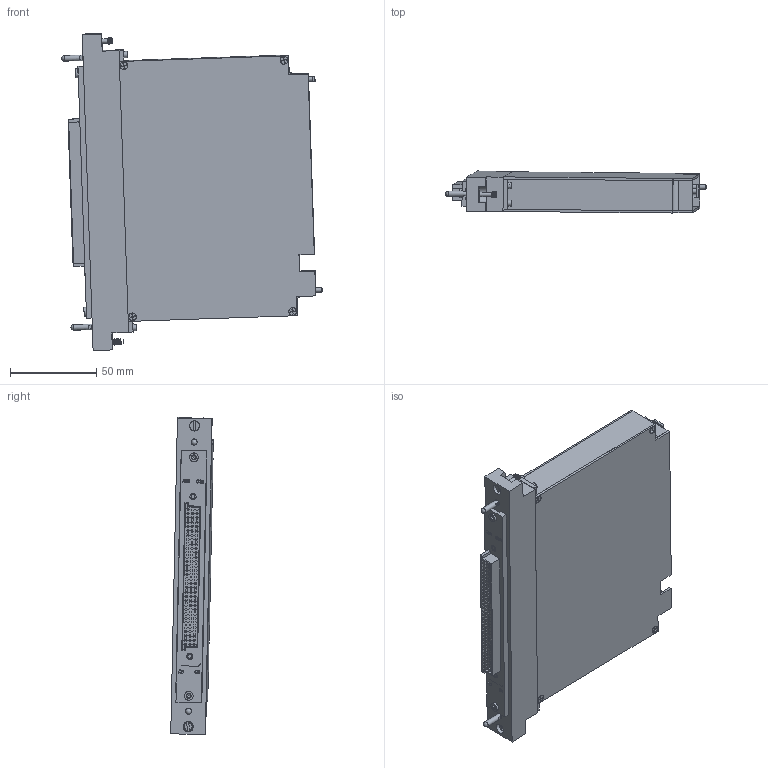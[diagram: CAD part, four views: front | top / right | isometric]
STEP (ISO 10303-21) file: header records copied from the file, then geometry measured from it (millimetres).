
FILE_DESCRIPTION((''),'2;1');
FILE_NAME('C:\old_Drawings\shrinkwrapped website .stp files\561047-STP.stp','2011-08-18T11:46:38',('GaryRobinson'),(''),'Autodesk Inventor 2011','Autodesk Inventor 2011','');
FILE_SCHEMA(('AUTOMOTIVE_DESIGN { 1 0 10303 214 1 1 1 1 }'));
Length unit declared in the file: inch
Products named in the file (1): DAK with 96 HDI-STP
Bounding box: 151.17 x 24.67 x 183.92 mm (x, y, z)
Surface area: 98731.1 mm2 (no closed solid volume)
Topology: 0 solids, 117 shells, 264 faces, 1982 edges, 1749 vertices
Faces by surface type: plane 155, cone 74, cylinder 30, bspline 3, sphere 2
Full cylindrical faces by diameter (mm): 2.5 x1, 2.54 x2, 2.731 x1, 2.946 x2, 3.175 x2, 3.556 x4, 4.763 x1, 5.08 x2, 5.953 x2
Entity records: 19283 total; most frequent: CARTESIAN_POINT 5147, DIRECTION 2377, ORIENTED_EDGE 2114, EDGE_CURVE 1816, VERTEX_POINT 1678, VECTOR 1283, LINE 1283, AXIS2_PLACEMENT_3D 547
